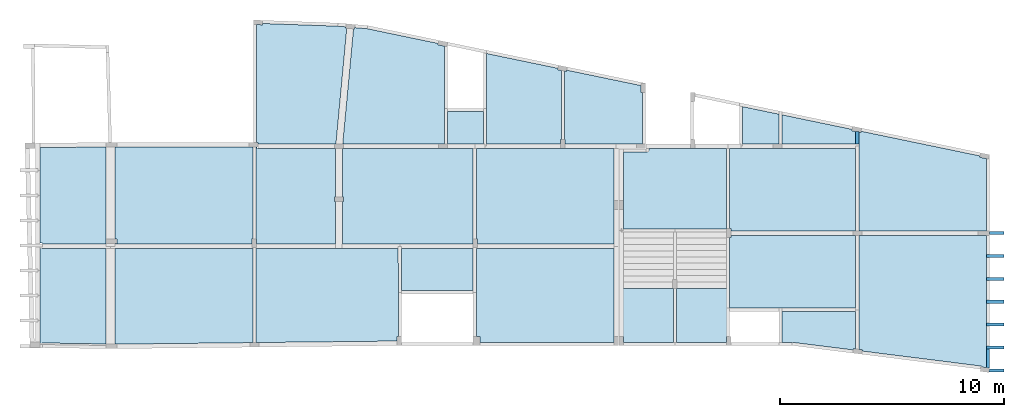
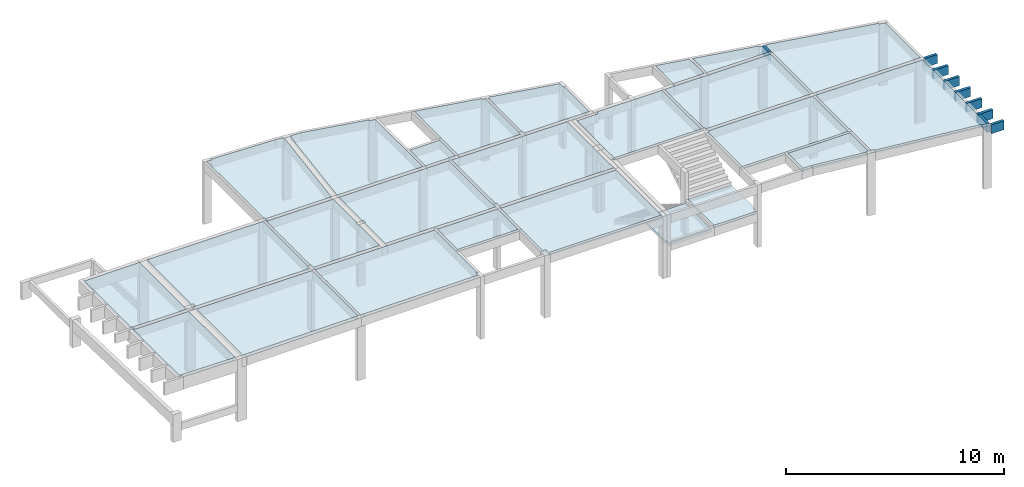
# One storey, part 4 of 5: 25 slabs, 9 beams.
"""IFC4 building model written with IfcOpenShell, lengths in centimetres."""

from ifc_helpers import new_model, si_unit, derived_unit, frame, origin, origin_with_axes, origin_2d_with_axis, place, context, project, spatial, polyline, rectangle, outline, extrude, material, element, save


model = new_model("IFC4")

# Units and contexts
model_context = context("Model", 3, precision=1e-05, world=origin_with_axes(), identifier="Body")
ifc_project = project(units=[si_unit("LENGTHUNIT", "METRE", prefix="CENTI"), si_unit("VOLUMEUNIT", "CUBIC_METRE"), si_unit("AREAUNIT", "SQUARE_METRE"), si_unit("POWERUNIT", "WATT"), si_unit("LUMINOUSFLUXUNIT", "LUMEN"), si_unit("ELECTRICCURRENTUNIT", "AMPERE"), si_unit("PRESSUREUNIT", "PASCAL", prefix="KILO"), si_unit("MASSUNIT", "GRAM", prefix="KILO"), si_unit("PLANEANGLEUNIT", "RADIAN"), derived_unit("VOLUMETRICFLOWRATEUNIT", [(si_unit("LENGTHUNIT", "METRE"), 3), (si_unit("TIMEUNIT", "SECOND"), -1)])], contexts=[model_context])

# Site, building, storey
site_placement = place(None, origin_with_axes())
site = spatial("IfcSite", under=ifc_project, at=site_placement)
building_placement = place(site_placement, origin())
building = spatial("IfcBuilding", under=site, at=building_placement)
placement_1 = place(building_placement, origin_with_axes())
placement_2 = place(placement_1, frame((0.0, 0.0, 550.0), z_axis=(0.0, 0.0, 1.0), x_axis=(1.0, 0.0, 0.0)))
storey_placement = place(placement_2, frame((0.0, 0.0, 350.0), z_axis=(0.0, 0.0, 1.0), x_axis=(1.0, 0.0, 0.0)))
storey = spatial("IfcBuildingStorey", under=building, at=storey_placement, Name="1º PAV.", CompositionType="ELEMENT", Elevation=900.0)

# Beams
ifc_material = material(Name="Concreto")
beam_1_placement = place(storey_placement, frame((4338.1, -843.1, 0.0), z_axis=(0.0, 0.0, 1.0), x_axis=(1.0, 0.0, 0.0)))
element("IfcBeam", 1, at=beam_1_placement, inside=storey, material=ifc_material, Name="V11", context=model_context, shape_type="SolidModel", body=[
    extrude(rectangle(XDim=14.0, YDim=50.0, at=origin_2d_with_axis()), frame((-32.5, 0.0, -25.0), z_axis=(1.0, 0.0, 0.0), x_axis=(0.0, 1.0, 0.0)), (0.0, 0.0, 1.0), 65.0),
])
for number, where, z_axis, x_axis, name in (
    (2, (4331.1, -945.1, 0.0), (0.0, 0.0, 1.0), (1.0, 0.0, 0.0), "V14"),
    (3, (4331.1, -1047.15, 0.0), (0.0, 0.0, 1.0), (1.0, 0.0, 0.0), "V16"),
    (4, (4331.1, -1149.15, 0.0), (0.0, 0.0, 1.0), (1.0, 0.0, 0.0), "V20"),
    (5, (4331.1, -1251.15, 0.0), (0.0, 0.0, 1.0), (1.0, 0.0, 0.0), "V22"),
    (6, (4331.1, -1353.2, 0.0), (0.0, 0.0, 1.0), (1.0, 0.0, 0.0), "V26"),
):
    element("IfcBeam", number, at=place(storey_placement, frame(where, z_axis=z_axis, x_axis=x_axis)), inside=storey, material=ifc_material, Name=name, context=model_context, shape_type="SolidModel", body=[
        extrude(rectangle(XDim=14.0, YDim=50.0, at=origin_2d_with_axis()), frame((-39.5, 0.0, -25.0), z_axis=(1.0, 0.0, 0.0), x_axis=(0.0, 1.0, 0.0)), (0.0, 0.0, 1.0), 79.0),
    ])
beam_2_placement = place(storey_placement, frame((4337.368383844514, -1455.2, 0.0), z_axis=(0.0, 0.0, 1.0), x_axis=(1.0, 0.0, 0.0)))
element("IfcBeam", 7, at=beam_2_placement, inside=storey, material=ifc_material, Name="V27", context=model_context, shape_type="SolidModel", body=[
    extrude(rectangle(XDim=14.0, YDim=50.0, at=origin_2d_with_axis()), frame((-33.231616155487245, 0.0, -25.0), z_axis=(1.0, 0.0, 0.0), x_axis=(0.0, 1.0, 0.0)), (0.0, 0.0, 1.0), 66.46323231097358),
])
beam_3_placement = place(storey_placement, frame((3716.6, -418.10970030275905, 0.0), z_axis=(0.0, 0.0, 1.0), x_axis=(1.0, 0.0, 0.0)))
element("IfcBeam", 8, at=beam_3_placement, inside=storey, material=ifc_material, Name="V47", context=model_context, shape_type="SolidModel", body=[
    extrude(rectangle(XDim=14.0, YDim=50.0, at=origin_2d_with_axis()), frame((0.0, -27.79029969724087, -25.0), z_axis=(0.0, 1.0, 0.0), x_axis=(1.0, 0.0, 0.0)), (0.0, 0.0, 1.0), 55.580599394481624),
])
beam_4_placement = place(storey_placement, frame((4298.6, -1402.3660584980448, 0.0), z_axis=(0.0, 0.0, 1.0), x_axis=(1.0, 0.0, 0.0)))
element("IfcBeam", 9, at=beam_4_placement, inside=storey, material=ifc_material, Name="V48", context=model_context, shape_type="SolidModel", body=[
    extrude(rectangle(XDim=14.0, YDim=50.0, at=origin_2d_with_axis()), frame((0.0, -42.166058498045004, -25.0), z_axis=(0.0, 1.0, 0.0), x_axis=(1.0, 0.0, 0.0)), (0.0, 0.0, 1.0), 84.33211699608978),
])

# Slabs
slab_1_placement = place(storey_placement, frame((1240.3545, -177.359, 0.0), z_axis=(0.0, 0.0, 1.0), x_axis=(1.0, 0.0, 0.0)))
element("IfcSlab", 10, at=slab_1_placement, inside=storey, material=ifc_material, Name="L1", PredefinedType="FLOOR", context=model_context, shape_type="SolidModel", body=[
    extrude(outline(polyline([(200.85436123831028, 247.01765528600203), (195.95436123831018, 247.43765528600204), (196.4683612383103, 253.42465528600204), (160.27536123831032, 256.52865528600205), (-175.39563876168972, 268.54065528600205), (-175.61463876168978, 262.558655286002), (-200.85463876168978, 263.479655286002), (-200.8536387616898, -261.44034471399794), (-195.35463876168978, -261.441344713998), (-195.35463876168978, -268.54134471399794), (152.45536123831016, -268.54134471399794), (200.85436123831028, 247.01765528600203), (200.85436123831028, 247.01765528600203)])), frame((0.000138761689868, 0.000344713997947, -15.0), z_axis=(0.0, 0.0, 1.0), x_axis=(1.0, 0.0, 0.0)), (0.0, 0.0, 1.0), 15.0),
])
slab_2_placement = place(storey_placement, frame((710.225, -675.6095, 0.0), z_axis=(0.0, 0.0, 1.0), x_axis=(1.0, 0.0, 0.0)))
element("IfcSlab", 11, at=slab_2_placement, inside=storey, material=ifc_material, Name="L10", PredefinedType="FLOOR", context=model_context, shape_type="SolidModel", body=[
    extrude(outline(polyline([(309.26, -216.79004779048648), (309.345, -192.7600477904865), (312.474, -192.7700477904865), (312.475, 216.80995220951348), (-302.475, 216.80995220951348), (-302.474, -194.2890477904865), (-292.475, -194.2890477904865), (-292.475, -214.2890477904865), (-312.475, -214.2890477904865), (-312.474, -216.8090477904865), (309.26, -216.79004779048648), (309.26, -216.79004779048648)])), frame((0.0, -0.000452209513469, -18.0), z_axis=(0.0, 0.0, 1.0), x_axis=(1.0, 0.0, 0.0)), (0.0, 0.0, 1.0), 18.0),
])
slab_3_placement = place(storey_placement, frame((1213.8505, -675.6, 0.0), z_axis=(0.0, 0.0, 1.0), x_axis=(1.0, 0.0, 0.0)))
element("IfcSlab", 12, at=slab_3_placement, inside=storey, material=ifc_material, Name="L11", PredefinedType="FLOOR", context=model_context, shape_type="SolidModel", body=[
    extrude(outline(polyline([(177.149, -27.299), (172.15, -27.299), (172.15, -7.299), (177.15, -7.299), (177.15, 209.7), (-171.85, 209.7), (-171.85, 216.8), (-177.149, 216.799), (-177.149, -192.829), (-174.28, -192.84), (-174.363, -216.8), (177.121, -216.8), (177.149, -27.299), (177.149, -27.299)])), frame((-0.0005, 0.0, -15.0), z_axis=(0.0, 0.0, 1.0), x_axis=(1.0, 0.0, 0.0)), (0.0, 0.0, 1.0), 15.0),
])
slab_4_placement = place(storey_placement, frame((1712.786, -679.1495, 0.0), z_axis=(0.0, 0.0, 1.0), x_axis=(1.0, 0.0, 0.0)))
element("IfcSlab", 13, at=slab_4_placement, inside=storey, material=ifc_material, Name="L12", PredefinedType="FLOOR", context=model_context, shape_type="SolidModel", body=[
    extrude(outline(polyline([(291.81425925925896, -213.249), (291.813259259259, 213.25), (-291.78574074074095, 213.25), (-291.78574074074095, -3.749), (-286.78574074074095, -3.749), (-286.78574074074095, -23.749), (-291.78574074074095, -23.749), (-291.81374074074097, -213.249), (291.81425925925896, -213.249), (291.81425925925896, -213.249)])), frame((-0.00025925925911, -0.0005, -15.0), z_axis=(0.0, 0.0, 1.0), x_axis=(1.0, 0.0, 0.0)), (0.0, 0.0, 1.0), 15.0),
])
slab_5_placement = place(storey_placement, frame((2325.1045, -679.1495, 0.0), z_axis=(0.0, 0.0, 1.0), x_axis=(1.0, 0.0, 0.0)))
element("IfcSlab", 14, at=slab_5_placement, inside=storey, material=ifc_material, Name="L13", PredefinedType="FLOOR", context=model_context, shape_type="SolidModel", body=[
    extrude(outline(polyline([(306.49430432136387, -58.95), (306.49430432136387, 213.25), (-306.5046956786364, 213.25), (-306.5046956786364, -189.25), (-300.5046956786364, -189.249), (-300.5036956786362, -213.249), (306.50430432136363, -213.249), (306.49430432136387, -58.95), (306.49430432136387, -58.95)])), frame((0.000195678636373, -0.0005, -15.0), z_axis=(0.0, 0.0, 1.0), x_axis=(1.0, 0.0, 0.0)), (0.0, 0.0, 1.0), 15.0),
])
slab_6_placement = place(storey_placement, frame((2903.5995, -644.9995, 0.0), z_axis=(0.0, 0.0, 1.0), x_axis=(1.0, 0.0, 0.0)))
element("IfcSlab", 15, at=slab_6_placement, inside=storey, material=ifc_material, Name="L14", PredefinedType="FLOOR", context=model_context, shape_type="SolidModel", body=[
    extrude(outline(polyline([(229.999, -179.099), (229.999, 179.1), (-114.6, 179.1), (-114.6, 170.1), (-121.6, 170.1), (-121.6, 163.1), (-230.0, 163.099), (-229.999, -179.099), (229.999, -179.099), (229.999, -179.099)])), frame((0.0005, -0.0005, -15.0), z_axis=(0.0, 0.0, 1.0), x_axis=(1.0, 0.0, 0.0)), (0.0, 0.0, 1.0), 15.0),
])
slab_7_placement = place(storey_placement, frame((3428.6, -649.5005, 0.0), z_axis=(0.0, 0.0, 1.0), x_axis=(1.0, 0.0, 0.0)))
element("IfcSlab", 16, at=slab_7_placement, inside=storey, material=ifc_material, Name="L15", PredefinedType="FLOOR", context=model_context, shape_type="SolidModel", body=[
    extrude(outline(polyline([(281.0, -183.599), (281.0, 183.599), (-280.999, 183.599), (-281.0, -174.099), (-275.0, -174.1), (-275.0, -183.6), (281.0, -183.599), (281.0, -183.599)])), frame((0.0, 0.0005, -15.0), z_axis=(0.0, 0.0, 1.0), x_axis=(1.0, 0.0, 0.0)), (0.0, 0.0, 1.0), 15.0),
])
slab_8_placement = place(storey_placement, frame((3428.6, -1015.5005, 0.0), z_axis=(0.0, 0.0, 1.0), x_axis=(1.0, 0.0, 0.0)))
element("IfcSlab", 17, at=slab_8_placement, inside=storey, material=ifc_material, Name="L16", PredefinedType="FLOOR", context=model_context, shape_type="SolidModel", body=[
    extrude(outline(polyline([(280.999, 162.399), (-275.0, 162.399), (-275.0, 151.899), (-281.0, 151.899), (-280.999, -162.4), (281.0, -162.4), (280.999, 162.399), (280.999, 162.399)])), frame((0.0, 0.0005, -17.0), z_axis=(0.0, 0.0, 1.0), x_axis=(1.0, 0.0, 0.0)), (0.0, 0.0, 1.0), 17.0),
])
slab_9_placement = place(storey_placement, frame((4007.6, -1147.9315, 0.0), z_axis=(0.0, 0.0, 1.0), x_axis=(1.0, 0.0, 0.0)))
element("IfcSlab", 18, at=slab_9_placement, inside=storey, material=ifc_material, Name="L17", PredefinedType="FLOOR", context=model_context, shape_type="SolidModel", body=[
    extrude(outline(polyline([(283.999, -294.8314240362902), (284.0, 294.8315759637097), (-283.999, 294.8315759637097), (-284.0, -213.3304240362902), (-268.65, -215.2684240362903), (-269.405, -221.24242403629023), (262.54, -288.1474240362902), (262.045, -292.05442403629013), (283.999, -294.8314240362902), (283.999, -294.8314240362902)])), frame((0.0, -7.5963709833e-05, -17.0), z_axis=(0.0, 0.0, 1.0), x_axis=(1.0, 0.0, 0.0)), (0.0, 0.0, 1.0), 17.0),
])
slab_10_placement = place(storey_placement, frame((221.175, -1122.919, 0.0), z_axis=(0.0, 0.0, 1.0), x_axis=(1.0, 0.0, 0.0)))
element("IfcSlab", 19, at=slab_10_placement, inside=storey, material=ifc_material, Name="L18", PredefinedType="FLOOR", context=model_context, shape_type="SolidModel", body=[
    extrude(outline(polyline([(146.575, 210.499154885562), (-139.625, 210.499154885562), (-139.625, 214.4891548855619), (-146.575, 214.4891548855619), (-146.574, -211.78084511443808), (-139.429, -211.7798451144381), (-139.415, -209.96084511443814), (146.574, -214.48884511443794), (146.575, 210.499154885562), (146.575, 210.499154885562)])), frame((0.0, -0.000154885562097, -15.0), z_axis=(0.0, 0.0, 1.0), x_axis=(1.0, 0.0, 0.0)), (0.0, 0.0, 1.0), 15.0),
])
slab_11_placement = place(storey_placement, frame((715.225, -1123.2855, 0.0), z_axis=(0.0, 0.0, 1.0), x_axis=(1.0, 0.0, 0.0)))
element("IfcSlab", 20, at=slab_11_placement, inside=storey, material=ifc_material, Name="L19", PredefinedType="FLOOR", context=model_context, shape_type="SolidModel", body=[
    extrude(outline(polyline([(294.475, -208.32770089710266), (294.475, -207.7147008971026), (307.475, -207.7147008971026), (307.475, 214.91329910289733), (307.233, 214.91429910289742), (307.225, 210.88529910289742), (-307.475, 210.86529910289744), (-307.474, -214.91470089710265), (-297.475, -214.91470089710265), (294.475, -208.32770089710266), (294.475, -208.32770089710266)])), frame((0.0, 0.000200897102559, -18.0), z_axis=(0.0, 0.0, 1.0), x_axis=(1.0, 0.0, 0.0)), (0.0, 0.0, 1.0), 18.0),
])
slab_12_placement = place(storey_placement, frame((1649.9775, -186.6175, 0.0), z_axis=(0.0, 0.0, 1.0), x_axis=(1.0, 0.0, 0.0)))
element("IfcSlab", 21, at=slab_12_placement, inside=storey, material=ifc_material, Name="L2", PredefinedType="FLOOR", context=model_context, shape_type="SolidModel", body=[
    extrude(outline(polyline([(227.0227313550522, -259.2812036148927), (227.02173135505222, 176.6857963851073), (197.8017313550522, 182.7377963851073), (199.01473135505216, 188.59879638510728), (-118.0062686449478, 254.56379638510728), (-173.29126864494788, 259.28179638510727), (-173.80626864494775, 253.27779638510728), (-178.86826864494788, 253.71179638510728), (-227.02226864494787, -259.2812036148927), (227.0227313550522, -259.2812036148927), (227.0227313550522, -259.2812036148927)])), frame((-0.000231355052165, -0.000296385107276, -15.0), z_axis=(0.0, 0.0, 1.0), x_axis=(1.0, 0.0, 0.0)), (0.0, 0.0, 1.0), 15.0),
])
slab_13_placement = place(storey_placement, frame((1353.65, -1121.7, 0.0), z_axis=(0.0, 0.0, 1.0), x_axis=(1.0, 0.0, 0.0)))
element("IfcSlab", 22, at=slab_13_placement, inside=storey, material=ifc_material, Name="L20", PredefinedType="FLOOR", context=model_context, shape_type="SolidModel", body=[
    extrude(outline(polyline([(310.95, -202.622), (310.949, -182.399), (316.949, -182.4), (316.949, 14.799), (316.921, 209.299), (-316.949, 209.3), (-316.949, -209.3), (-303.949, -209.3), (310.95, -202.622), (310.95, -202.622)])), frame((0.0, 0.0, -15.0), z_axis=(0.0, 0.0, 1.0), x_axis=(1.0, 0.0, 0.0)), (0.0, 0.0, 1.0), 15.0),
])
slab_14_placement = place(storey_placement, frame((1844.586, -1006.1495, 0.0), z_axis=(0.0, 0.0, 1.0), x_axis=(1.0, 0.0, 0.0)))
element("IfcSlab", 23, at=slab_14_placement, inside=storey, material=ifc_material, Name="L21", PredefinedType="FLOOR", context=model_context, shape_type="SolidModel", body=[
    extrude(outline(polyline([(160.01426650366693, 93.75), (-160.01373349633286, 93.75), (-159.98673349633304, -93.749), (160.01326650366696, -93.749), (160.01426650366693, 93.75), (160.01426650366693, 93.75)])), frame((-0.000266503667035, -0.0005, -15.0), z_axis=(0.0, 0.0, 1.0), x_axis=(1.0, 0.0, 0.0)), (0.0, 0.0, 1.0), 15.0),
])
slab_15_placement = place(storey_placement, frame((2325.1045, -1119.25, 0.0), z_axis=(0.0, 0.0, 1.0), x_axis=(1.0, 0.0, 0.0)))
element("IfcSlab", 24, at=slab_15_placement, inside=storey, material=ifc_material, Name="L22", PredefinedType="FLOOR", context=model_context, shape_type="SolidModel", body=[
    extrude(outline(polyline([(306.49412447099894, -210.85), (306.5041244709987, 206.849), (-303.5048755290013, 206.85), (-303.5048755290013, 210.85), (-306.5048755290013, 210.849), (-306.5038755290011, -184.85), (-290.5048755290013, -184.849), (-290.5048755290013, -210.849), (306.49412447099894, -210.85), (306.49412447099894, -210.85)])), frame((0.000375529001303, 0.0, -18.0), z_axis=(0.0, 0.0, 1.0), x_axis=(1.0, 0.0, 0.0)), (0.0, 0.0, 1.0), 18.0),
])
slab_16_placement = place(storey_placement, frame((3545.6, -1278.043, 0.0), z_axis=(0.0, 0.0, 1.0), x_axis=(1.0, 0.0, 0.0)))
element("IfcSlab", 25, at=slab_16_placement, inside=storey, material=ifc_material, Name="L23", PredefinedType="FLOOR", context=model_context, shape_type="SolidModel", body=[
    extrude(outline(polyline([(153.66, -80.14696897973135), (164.0, -81.45196897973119), (164.0, 86.14303102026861), (-163.999, 86.14303102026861), (-164.0, -52.01496897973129), (-119.199, -52.00596897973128), (-119.199, -59.00596897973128), (-118.33, -52.05596897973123), (152.904, -86.14296897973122), (153.66, -80.14696897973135), (153.66, -80.14696897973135)])), frame((0.0, -3.102026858e-05, -22.0), z_axis=(0.0, 0.0, 1.0), x_axis=(1.0, 0.0, 0.0)), (0.0, 0.0, 1.0), 22.0),
])
slab_17_placement = place(storey_placement, frame((2231.25, -244.369, 0.0), z_axis=(0.0, 0.0, 1.0), x_axis=(1.0, 0.0, 0.0)))
element("IfcSlab", 26, at=slab_17_placement, inside=storey, material=ifc_material, Name="L3", PredefinedType="FLOOR", context=model_context, shape_type="SolidModel", body=[
    extrude(outline(polyline([(163.25, -181.53013458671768), (166.25, -181.53113458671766), (166.25, 126.37886541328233), (149.88, 129.79886541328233), (151.103, 135.6578654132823), (-166.249, 201.53086541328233), (-166.25, -201.53113458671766), (163.25, -201.53113458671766), (163.25, -181.53013458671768), (163.25, -181.53013458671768)])), frame((0.0, 0.00013458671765, -15.0), z_axis=(0.0, 0.0, 1.0), x_axis=(1.0, 0.0, 0.0)), (0.0, 0.0, 1.0), 15.0),
])
slab_18_placement = place(storey_placement, frame((2585.25, -281.371, 0.0), z_axis=(0.0, 0.0, 1.0), x_axis=(1.0, 0.0, 0.0)))
element("IfcSlab", 27, at=slab_18_placement, inside=storey, material=ifc_material, Name="L4", PredefinedType="FLOOR", context=model_context, shape_type="SolidModel", body=[
    extrude(outline(polyline([(173.75, 65.87954786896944), (167.75, 65.87954786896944), (167.749, 95.73054786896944), (-163.725, 164.5285478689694), (-164.96, 158.62054786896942), (-173.75, 160.45654786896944), (-173.75, -144.52845213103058), (-170.75, -144.52845213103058), (-170.749, -164.52945213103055), (173.75, -164.52945213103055), (173.75, 65.87954786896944), (173.75, 65.87954786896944)])), frame((0.0, 0.000452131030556, -15.0), z_axis=(0.0, 0.0, 1.0), x_axis=(1.0, 0.0, 0.0)), (0.0, 0.0, 1.0), 15.0),
])
slab_19_placement = place(storey_placement, frame((1971.0, -373.8995, 0.0), z_axis=(0.0, 0.0, 1.0), x_axis=(1.0, 0.0, 0.0)))
element("IfcSlab", 28, at=slab_19_placement, inside=storey, material=ifc_material, Name="L5", PredefinedType="FLOOR", context=model_context, shape_type="SolidModel", body=[
    extrude(outline(polyline([(80.0, 72.0), (-80.0, 72.0), (-80.0, -71.999), (80.0, -71.999), (80.0, 72.0), (80.0, 72.0)])), frame((0.0, -0.0005, -15.0), z_axis=(0.0, 0.0, 1.0), x_axis=(1.0, 0.0, 0.0)), (0.0, 0.0, 1.0), 15.0),
])
slab_20_placement = place(storey_placement, frame((3286.7995, -362.779, 0.0), z_axis=(0.0, 0.0, 1.0), x_axis=(1.0, 0.0, 0.0)))
element("IfcSlab", 29, at=slab_20_placement, inside=storey, material=ifc_material, Name="L6", PredefinedType="FLOOR", context=model_context, shape_type="SolidModel", body=[
    extrude(outline(polyline([(-80.8, -83.12111332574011), (80.799, -83.12011332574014), (80.799, 49.57688667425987), (-80.8, 83.12088667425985), (-80.8, -83.12111332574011), (-80.8, -83.12111332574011)])), frame((0.0005, 0.000113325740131, -15.0), z_axis=(0.0, 0.0, 1.0), x_axis=(1.0, 0.0, 0.0)), (0.0, 0.0, 1.0), 15.0),
])
slab_21_placement = place(storey_placement, frame((3545.6, -381.004, 0.0), z_axis=(0.0, 0.0, 1.0), x_axis=(1.0, 0.0, 0.0)))
element("IfcSlab", 30, at=slab_21_placement, inside=storey, material=ifc_material, Name="L7", PredefinedType="FLOOR", context=model_context, shape_type="SolidModel", body=[
    extrude(outline(polyline([(164.0, -9.31805229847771), (147.329, -5.835052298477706), (148.551, 0.012947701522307), (-164.0, 64.89594770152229), (-164.0, -64.89505229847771), (163.999, -64.89605229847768), (164.0, -9.31805229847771), (164.0, -9.31805229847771)])), frame((0.0, 5.2298477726e-05, -15.0), z_axis=(0.0, 0.0, 1.0), x_axis=(1.0, 0.0, 0.0)), (0.0, 0.0, 1.0), 15.0),
])
slab_22_placement = place(storey_placement, frame((4007.6, -611.1105, 0.0), z_axis=(0.0, 0.0, 1.0), x_axis=(1.0, 0.0, 0.0)))
element("IfcSlab", 31, at=slab_22_placement, inside=storey, material=ifc_material, Name="L8", PredefinedType="FLOOR", context=model_context, shape_type="SolidModel", body=[
    extrude(outline(polyline([(284.0, 100.00032626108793), (254.759, 106.11032626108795), (255.977, 111.93832626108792), (-274.277, 221.98932626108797), (-275.509, 216.09032626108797), (-284.0, 217.86332626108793), (-283.999, -221.98867373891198), (283.999, -221.98967373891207), (284.0, 100.00032626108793), (284.0, 100.00032626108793)])), frame((0.0, 0.000173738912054, -15.0), z_axis=(0.0, 0.0, 1.0), x_axis=(1.0, 0.0, 0.0)), (0.0, 0.0, 1.0), 15.0),
])
slab_23_placement = place(storey_placement, frame((221.175, -675.8535, 0.0), z_axis=(0.0, 0.0, 1.0), x_axis=(1.0, 0.0, 0.0)))
element("IfcSlab", 32, at=slab_23_placement, inside=storey, material=ifc_material, Name="L9", PredefinedType="FLOOR", context=model_context, shape_type="SolidModel", body=[
    extrude(outline(polyline([(146.575, -216.56683708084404), (146.574, 216.5661629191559), (-136.535, 213.81216291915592), (-146.575, 213.74216291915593), (-146.574, -212.57583708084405), (-136.625, -212.57583708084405), (-136.625, -216.56583708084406), (146.575, -216.56683708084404), (146.575, -216.56683708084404)])), frame((0.0, 0.00033708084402, -15.0), z_axis=(0.0, 0.0, 1.0), x_axis=(1.0, 0.0, 0.0)), (0.0, 0.0, 1.0), 15.0),
])
slab_24_placement = place(storey_placement, frame((2781.5995, -1210.0995, -172.0), z_axis=(0.0, 0.0, 1.0), x_axis=(1.0, 0.0, 0.0)))
element("IfcSlab", 33, at=slab_24_placement, inside=storey, material=ifc_material, Name="LE2", PredefinedType="LANDING", context=model_context, shape_type="SolidModel", body=[
    extrude(outline(polyline([(114.999, 120.0), (-115.0, 120.0), (-114.999, -93.999), (-108.0, -93.999), (-108.0, -119.999), (114.999, -119.999), (114.999, 120.0), (114.999, 120.0)])), frame((0.0005, -0.0005, -15.0), z_axis=(0.0, 0.0, 1.0), x_axis=(1.0, 0.0, 0.0)), (0.0, 0.0, 1.0), 15.0),
])
slab_25_placement = place(storey_placement, frame((3025.6, -1210.1, -154.5), z_axis=(0.0, 0.0, 1.0), x_axis=(1.0, 0.0, 0.0)))
element("IfcSlab", 34, at=slab_25_placement, inside=storey, material=ifc_material, Name="LE3", PredefinedType="LANDING", context=model_context, shape_type="SolidModel", body=[
    extrude(outline(polyline([(107.999, -119.999), (107.999, -93.999), (115.0, -93.999), (114.999, 120.0), (-115.0, 120.0), (-114.999, -120.0), (107.999, -119.999), (107.999, -119.999)])), frame((0.0, 0.0, -15.0), z_axis=(0.0, 0.0, 1.0), x_axis=(1.0, 0.0, 0.0)), (0.0, 0.0, 1.0), 15.0),
])

save(model, "model.ifc")
